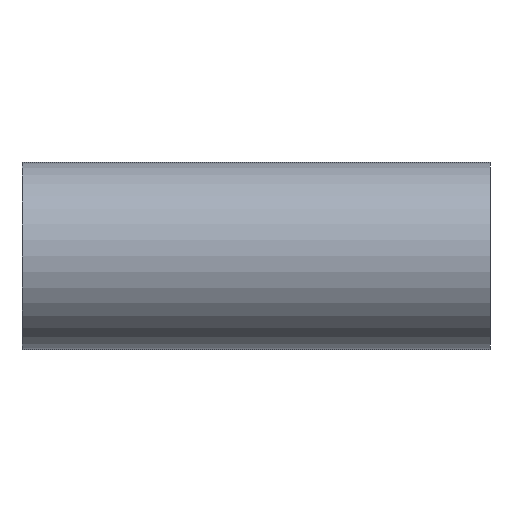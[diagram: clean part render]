
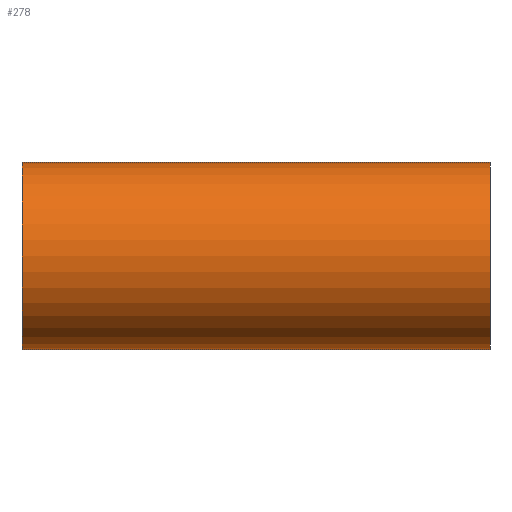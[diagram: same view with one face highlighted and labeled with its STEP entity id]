
A CAD part, front view. The second image highlights one B-rep face of the part: STEP entity #278.
In plain terms, the highlighted cylindrical face has radius 31.75 mm (diameter 63.5 mm), a partial arc.
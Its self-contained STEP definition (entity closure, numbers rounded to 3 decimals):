
#4 = ORIENTED_EDGE ( 'NONE', *, *, #242, .T. ) ;
#12 = DIRECTION ( 'NONE',  ( 1., 0., 0. ) ) ;
#16 = EDGE_CURVE ( 'NONE', #297, #130, #300, .T. ) ;
#25 = ORIENTED_EDGE ( 'NONE', *, *, #351, .T. ) ;
#27 = CARTESIAN_POINT ( 'NONE',  ( -79.4, 0., 31.75 ) ) ;
#29 = VECTOR ( 'NONE', #39, 1000. ) ;
#30 = ORIENTED_EDGE ( 'NONE', *, *, #292, .T. ) ;
#34 = CARTESIAN_POINT ( 'NONE',  ( 79.4, 0., 0. ) ) ;
#36 = VERTEX_POINT ( 'NONE', #124 ) ;
#39 = DIRECTION ( 'NONE',  ( 1., 0., 0. ) ) ;
#46 = CARTESIAN_POINT ( 'NONE',  ( -79.4, 0., 31.75 ) ) ;
#47 = DIRECTION ( 'NONE',  ( 1., 0., 0. ) ) ;
#52 = DIRECTION ( 'NONE',  ( -1., 0., 0. ) ) ;
#56 = DIRECTION ( 'NONE',  ( 0., 0., -1. ) ) ;
#65 = AXIS2_PLACEMENT_3D ( 'NONE', #226, #47, #76 ) ;
#70 = CARTESIAN_POINT ( 'NONE',  ( -79.4, 0., -31.75 ) ) ;
#76 = DIRECTION ( 'NONE',  ( 0., 0., -1. ) ) ;
#84 = CARTESIAN_POINT ( 'NONE',  ( -79.4, 0., 31.75 ) ) ;
#92 = CARTESIAN_POINT ( 'NONE',  ( 79.4, 0., 31.75 ) ) ;
#102 = LINE ( 'NONE', #46, #29 ) ;
#124 = CARTESIAN_POINT ( 'NONE',  ( -79.4, 0., -31.75 ) ) ;
#130 = VERTEX_POINT ( 'NONE', #92 ) ;
#141 = AXIS2_PLACEMENT_3D ( 'NONE', #34, #52, #56 ) ;
#161 = CIRCLE ( 'NONE', #141, 31.75 ) ;
#173 = EDGE_LOOP ( 'NONE', ( #211, #4, #225, #30, #25, #235 ) ) ;
#180 = CARTESIAN_POINT ( 'NONE',  ( -79.4, 0., -31.75 ) ) ;
#204 = FACE_OUTER_BOUND ( 'NONE', #173, .T. ) ;
#211 = ORIENTED_EDGE ( 'NONE', *, *, #361, .F. ) ;
#220 = CYLINDRICAL_SURFACE ( 'NONE', #65, 31.75 ) ;
#225 = ORIENTED_EDGE ( 'NONE', *, *, #382, .T. ) ;
#226 = CARTESIAN_POINT ( 'NONE',  ( -79.4, 0., 0. ) ) ;
#232 = VECTOR ( 'NONE', #12, 1000. ) ;
#235 = ORIENTED_EDGE ( 'NONE', *, *, #16, .F. ) ;
#242 = EDGE_CURVE ( 'NONE', #379, #36, #281, .T. ) ;
#255 = DIRECTION ( 'NONE',  ( 0., 0., -1. ) ) ;
#257 = DIRECTION ( 'NONE',  ( 1., 0., 0. ) ) ;
#260 = CARTESIAN_POINT ( 'NONE',  ( -79.4, 0., 0. ) ) ;
#278 = ADVANCED_FACE ( 'NONE', ( #204 ), #220, .T. ) ;
#281 = CIRCLE ( 'NONE', #305, 31.75 ) ;
#288 = DIRECTION ( 'NONE',  ( 1., 0., 0. ) ) ;
#289 = VECTOR ( 'NONE', #386, 1000. ) ;
#292 = EDGE_CURVE ( 'NONE', #403, #322, #306, .T. ) ;
#297 = VERTEX_POINT ( 'NONE', #364 ) ;
#300 = LINE ( 'NONE', #27, #365 ) ;
#305 = AXIS2_PLACEMENT_3D ( 'NONE', #260, #257, #255 ) ;
#306 = LINE ( 'NONE', #180, #232 ) ;
#311 = CARTESIAN_POINT ( 'NONE',  ( 79.4, 0., -31.75 ) ) ;
#322 = VERTEX_POINT ( 'NONE', #311 ) ;
#351 = EDGE_CURVE ( 'NONE', #322, #130, #161, .T. ) ;
#361 = EDGE_CURVE ( 'NONE', #379, #297, #102, .T. ) ;
#364 = CARTESIAN_POINT ( 'NONE',  ( 0., 0., 31.75 ) ) ;
#365 = VECTOR ( 'NONE', #288, 1000. ) ;
#379 = VERTEX_POINT ( 'NONE', #84 ) ;
#381 = LINE ( 'NONE', #70, #289 ) ;
#382 = EDGE_CURVE ( 'NONE', #36, #403, #381, .T. ) ;
#383 = CARTESIAN_POINT ( 'NONE',  ( 0., 0., -31.75 ) ) ;
#386 = DIRECTION ( 'NONE',  ( 1., 0., 0. ) ) ;
#403 = VERTEX_POINT ( 'NONE', #383 ) ;
